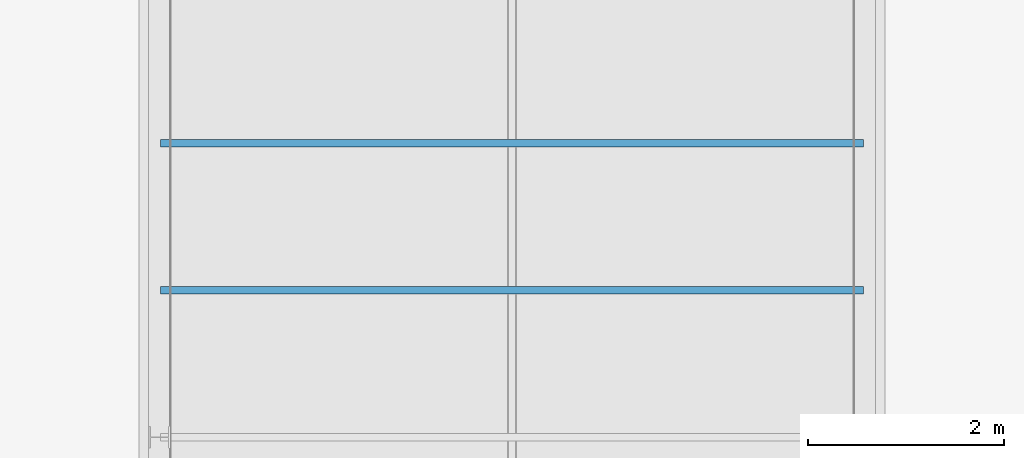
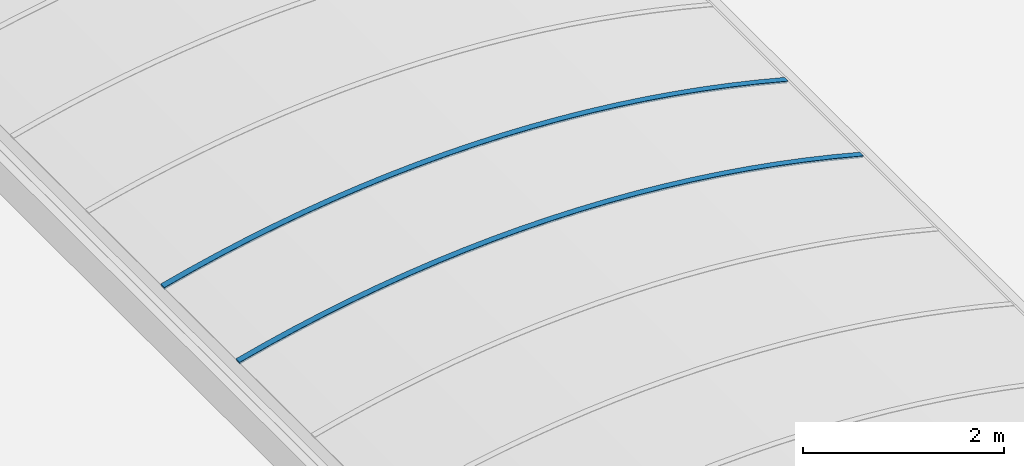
# One storey, part 55 of 81: 2 beams.
"""IFC2X3 building model written with IfcOpenShell, lengths in millimetres."""

from ifc_helpers import new_model, entity, si_unit, converted_unit, derived_unit, money_unit, direction, frame, origin_with_axes, place, context, subcontext, project, spatial, faceted_brep, material, material_list, type_object, element, save


model = new_model("IFC2X3")

# Units and contexts
model_context = context("Model", 3, precision=0.01, world=origin_with_axes(), true_north=direction((0.0, 1.0)))
body_context = subcontext(model_context, "Body", "Model", "MODEL_VIEW")
ifc_project = project(units=[si_unit("LENGTHUNIT", "METRE", prefix="MILLI"), si_unit("AREAUNIT", "SQUARE_METRE"), si_unit("VOLUMEUNIT", "CUBIC_METRE"), converted_unit("PLANEANGLEUNIT", "DEGREE", entity("IfcPlaneAngleMeasure", 0.0174532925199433), si_unit("PLANEANGLEUNIT", "RADIAN"), dimensions=[0, 0, 0, 0, 0, 0, 0]), money_unit("EUR"), converted_unit("TIMEUNIT", "Year", entity("IfcTimeMeasure", 31557600.0), si_unit("TIMEUNIT", "SECOND"), dimensions=[0, 0, 1, 0, 0, 0, 0]), si_unit("MASSUNIT", "GRAM", prefix="KILO"), si_unit("THERMODYNAMICTEMPERATUREUNIT", "DEGREE_CELSIUS"), si_unit("LUMINOUSINTENSITYUNIT", "LUMEN"), si_unit("ENERGYUNIT", "JOULE", prefix="MEGA"), derived_unit("THERMALCONDUCTANCEUNIT", [(si_unit("POWERUNIT", "WATT"), 1), (si_unit("LENGTHUNIT", "METRE"), -1), (si_unit("THERMODYNAMICTEMPERATUREUNIT", "KELVIN"), -1)]), derived_unit("SPECIFICHEATCAPACITYUNIT", [(si_unit("ENERGYUNIT", "JOULE"), 1), (si_unit("MASSUNIT", "GRAM", prefix="KILO"), -1), (si_unit("THERMODYNAMICTEMPERATUREUNIT", "KELVIN"), -1)]), derived_unit("MASSDENSITYUNIT", [(si_unit("MASSUNIT", "GRAM", prefix="KILO"), 1), (si_unit("VOLUMEUNIT", "CUBIC_METRE"), -1)])], contexts=[model_context])

# Site, building, storey
site_placement = place(None, origin_with_axes())
site = spatial("IfcSite", under=ifc_project, at=site_placement, Name="Site", CompositionType="ELEMENT")
building_placement = place(site_placement, origin_with_axes())
building = spatial("IfcBuilding", under=site, at=building_placement, Name="Naam gebouw", CompositionType="ELEMENT")
storey_placement = place(building_placement, frame((0.0, 0.0, 15320.0), z_axis=(0.0, 0.0, 1.0), x_axis=(1.0, 0.0, 0.0)))
storey = spatial("IfcBuildingStorey", under=building, at=storey_placement, Name="01 dak", CompositionType="ELEMENT", Elevation=15320.0)

# Beams
ifc_material = material(Name="Metaal - Aluminium AFW")
ifc_material_list = material_list([ifc_material, ifc_material])
beam_type = type_object("IfcBeamType", Name="lichtstraat polycarbonaat (constructie) 7420 x 670", PredefinedType="BEAM")
beam_1_placement = place(storey_placement, frame((105300.0, 77862.50000000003, 559.9999999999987), z_axis=(0.0, 0.0, 1.0), x_axis=(1.0, 0.0, 0.0)))
element("IfcBeam", 1, at=beam_1_placement, inside=storey, type_object=beam_type, material=ifc_material_list, Name="Plafondafwerking 3", ObjectType="BEAM", context=body_context, shape_type="Brep", body=[
    faceted_brep([(-3532.999999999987, 75.00000000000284, 192.1385480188), (-3532.999999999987, 0.0, 192.1385480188), (-3582.999999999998, 0.0, 179.000000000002), (-3582.999999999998, 75.00000000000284, 179.000000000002), (-3527.999999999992, 75.00000000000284, 193.4415530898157), (-3527.999999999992, 0.0, 193.4415530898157), (-2943.44844329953, 0.0, 337.3385317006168), (-3264.746952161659, 0.0, 264.2761146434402), (-3584.237010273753, 0.0, 183.6724462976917), (-3213.32287812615, 0.0, 271.5053933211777), (-2896.922437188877, 0.0, 342.2614189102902), (-2578.96836412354, 0.0, 405.6716830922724), (-2259.631179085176, 0.0, 461.7021786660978), (-1939.082143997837, 0.0, 510.3228562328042), (-1617.493170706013, 0.0, 551.5076403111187), (-1295.036728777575, 0.0, 585.2344433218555), (-971.8857530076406, 0.0, 611.485177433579), (-648.2135506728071, 0.0, 630.2457642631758), (-324.1937085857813, 0.0, 641.5061424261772), (0.0, 0.0, 645.2602729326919), (324.1937085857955, 0.0, 641.5061424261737), (648.2135506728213, 0.0, 630.2457642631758), (971.8857530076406, 0.0, 611.4851774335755), (1295.036728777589, 0.0, 585.2344433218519), (1617.493170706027, 0.0, 551.5076403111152), (1939.082143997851, 0.0, 510.3228562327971), (2259.63117908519, 0.0, 461.7021786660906), (2578.96836412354, 0.0, 405.6716830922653), (2896.922437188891, 0.0, 342.2614189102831), (3213.322878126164, 0.0, 271.5053933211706), (3528.000000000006, 0.0, 193.4415530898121), (3528.000000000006, 0.0, 194.0000000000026), (3533.000000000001, 0.0, 194.0000000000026), (3533.000000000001, 0.0, 192.1385480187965), (3582.999999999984, 0.0, 179.000000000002), (3584.237010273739, 0.0, 183.6724462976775), (3264.746952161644, 0.0, 264.2761146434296), (2943.448443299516, 0.0, 337.3385317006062), (2620.51946150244, 0.0, 402.8192257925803), (2296.138887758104, 0.0, 460.6819250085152), (1970.486407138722, 0.0, 510.8945772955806), (1643.742409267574, 0.0, 553.4293682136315), (1316.087888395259, 0.0, 588.2627363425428), (987.7043431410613, 0.0, 615.3753863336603), (658.7736759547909, 0.0, 634.7522995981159), (329.4780923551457, 0.0, 646.3827426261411), (0.0, 0.0, 650.2602729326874), (-329.4780923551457, 0.0, 646.3827426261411), (-658.7736759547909, 0.0, 634.7522995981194), (-987.7043431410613, 0.0, 615.375386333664), (-1316.087888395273, 0.0, 588.2627363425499), (-1643.742409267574, 0.0, 553.4293682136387), (-1970.486407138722, 0.0, 510.8945772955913), (-2296.138887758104, 0.0, 460.6819250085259), (-2620.519461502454, 0.0, 402.8192257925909), (-3584.237010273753, 75.00000000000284, 183.6724462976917), (-3213.32287812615, 75.00000000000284, 271.5053933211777), (-3264.746952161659, 75.00000000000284, 264.2761146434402), (-2943.44844329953, 75.00000000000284, 337.3385317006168), (-2620.519461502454, 75.00000000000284, 402.8192257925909), (-2296.138887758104, 75.00000000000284, 460.6819250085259), (-1970.486407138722, 75.00000000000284, 510.8945772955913), (-1643.742409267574, 75.00000000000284, 553.4293682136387), (-1316.087888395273, 75.00000000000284, 588.2627363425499), (-987.7043431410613, 75.00000000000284, 615.375386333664), (-658.7736759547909, 75.00000000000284, 634.7522995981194), (-329.4780923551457, 75.00000000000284, 646.3827426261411), (0.0, 75.00000000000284, 650.2602729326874), (329.4780923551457, 75.00000000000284, 646.3827426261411), (658.7736759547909, 75.00000000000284, 634.7522995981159), (987.7043431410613, 75.00000000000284, 615.3753863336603), (1316.087888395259, 75.00000000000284, 588.2627363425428), (1643.742409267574, 75.00000000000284, 553.4293682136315), (1970.486407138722, 75.00000000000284, 510.8945772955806), (2296.138887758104, 75.00000000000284, 460.6819250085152), (2620.51946150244, 75.00000000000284, 402.8192257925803), (2943.448443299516, 75.00000000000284, 337.3385317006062), (3264.746952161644, 75.00000000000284, 264.2761146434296), (3584.237010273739, 75.00000000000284, 183.6724462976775), (3582.999999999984, 75.00000000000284, 179.000000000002), (3533.000000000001, 75.00000000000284, 192.1385480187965), (3533.000000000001, 75.00000000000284, 194.0000000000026), (3528.000000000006, 75.00000000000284, 194.0000000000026), (3528.000000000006, 75.00000000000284, 193.4415530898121), (3213.322878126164, 75.00000000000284, 271.5053933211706), (2896.922437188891, 75.00000000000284, 342.2614189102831), (2578.96836412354, 75.00000000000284, 405.6716830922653), (2259.63117908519, 75.00000000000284, 461.7021786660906), (1939.082143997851, 75.00000000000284, 510.3228562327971), (1617.493170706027, 75.00000000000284, 551.5076403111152), (1295.036728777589, 75.00000000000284, 585.2344433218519), (971.8857530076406, 75.00000000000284, 611.4851774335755), (648.2135506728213, 75.00000000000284, 630.2457642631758), (324.1937085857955, 75.00000000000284, 641.5061424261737), (0.0, 75.00000000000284, 645.2602729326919), (-324.1937085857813, 75.00000000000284, 641.5061424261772), (-648.2135506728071, 75.00000000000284, 630.2457642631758), (-971.8857530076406, 75.00000000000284, 611.485177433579), (-1295.036728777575, 75.00000000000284, 585.2344433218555), (-1617.493170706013, 75.00000000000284, 551.5076403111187), (-1939.082143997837, 75.00000000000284, 510.3228562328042), (-2259.631179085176, 75.00000000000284, 461.7021786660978), (-2578.96836412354, 75.00000000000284, 405.6716830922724), (-2896.922437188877, 75.00000000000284, 342.2614189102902)], [[[0, 1, 2, 3]], [[4, 5, 1, 0]], [[6, 7, 8, 2, 1, 5, 9, 10, 11, 12, 13, 14, 15, 16, 17, 18, 19, 20, 21, 22, 23, 24, 25, 26, 27, 28, 29, 30, 31, 32, 33, 34, 35, 36, 37, 38, 39, 40, 41, 42, 43, 44, 45, 46, 47, 48, 49, 50, 51, 52, 53, 54]], [[3, 2, 8, 55]], [[56, 4, 0, 3, 55, 57, 58, 59, 60, 61, 62, 63, 64, 65, 66, 67, 68, 69, 70, 71, 72, 73, 74, 75, 76, 77, 78, 79, 80, 81, 82, 83, 84, 85, 86, 87, 88, 89, 90, 91, 92, 93, 94, 95, 96, 97, 98, 99, 100, 101, 102, 103]], [[56, 9, 5, 4]], [[57, 7, 6, 58]], [[55, 8, 7, 57]], [[103, 10, 9, 56]], [[102, 11, 10, 103]], [[101, 12, 11, 102]], [[100, 13, 12, 101]], [[99, 14, 13, 100]], [[98, 15, 14, 99]], [[97, 16, 15, 98]], [[96, 17, 16, 97]], [[95, 18, 17, 96]], [[94, 19, 18, 95]], [[93, 20, 19, 94]], [[92, 21, 20, 93]], [[91, 22, 21, 92]], [[90, 23, 22, 91]], [[89, 24, 23, 90]], [[88, 25, 24, 89]], [[87, 26, 25, 88]], [[86, 27, 26, 87]], [[85, 28, 27, 86]], [[84, 29, 28, 85]], [[83, 30, 29, 84]], [[82, 31, 30, 83]], [[81, 32, 31, 82]], [[80, 33, 32, 81]], [[79, 34, 33, 80]], [[78, 35, 34, 79]], [[77, 36, 35, 78]], [[76, 37, 36, 77]], [[75, 38, 37, 76]], [[74, 39, 38, 75]], [[73, 40, 39, 74]], [[72, 41, 40, 73]], [[71, 42, 41, 72]], [[70, 43, 42, 71]], [[69, 44, 43, 70]], [[68, 45, 44, 69]], [[67, 46, 45, 68]], [[66, 47, 46, 67]], [[65, 48, 47, 66]], [[64, 49, 48, 65]], [[63, 50, 49, 64]], [[62, 51, 50, 63]], [[61, 52, 51, 62]], [[60, 53, 52, 61]], [[59, 54, 53, 60]], [[58, 6, 54, 59]]]),
    faceted_brep([(3269.271727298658, 75.00000000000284, 283.190243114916), (2947.542627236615, 75.00000000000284, 356.4574241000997), (2947.542627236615, 0.0, 356.4574241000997), (3269.271727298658, 0.0, 283.190243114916), (3589.184752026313, 75.00000000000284, 202.3611008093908), (3587.947861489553, 75.00000000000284, 197.6891067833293), (3528.000000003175, 75.00000000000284, 213.4415530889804), (3213.322878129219, 75.00000000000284, 291.505393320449), (2896.922437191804, 75.00000000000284, 362.2614189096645), (2578.968364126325, 75.00000000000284, 425.6716830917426), (2259.631179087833, 75.00000000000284, 481.7021786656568), (1939.082144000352, 75.00000000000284, 530.3228562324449), (1617.493170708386, 75.00000000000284, 571.5076403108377), (1295.036728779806, 75.00000000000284, 605.2344433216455), (971.8857530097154, 75.00000000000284, 631.4851774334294), (648.2135506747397, 75.00000000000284, 650.2457642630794), (324.1937085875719, 75.00000000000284, 661.5061424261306), (1.63424829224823e-09, 75.00000000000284, 665.2602729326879), (-324.1937085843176, 75.00000000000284, 661.5061424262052), (-648.2135506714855, 75.00000000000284, 650.2457642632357), (-971.8857530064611, 75.00000000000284, 631.4851774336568), (-1295.036728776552, 75.00000000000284, 605.2344433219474), (-1617.493170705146, 75.00000000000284, 571.5076403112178), (-1939.082143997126, 75.00000000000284, 530.3228562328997), (-2259.631179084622, 75.00000000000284, 481.7021786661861), (-2578.968364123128, 75.00000000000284, 425.6716830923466), (-2896.922437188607, 75.00000000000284, 362.2614189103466), (-3213.322878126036, 75.00000000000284, 291.5053933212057), (-3528.00000000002, 75.00000000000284, 213.4415530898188), (-3533.000000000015, 75.00000000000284, 212.1385480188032), (-3587.947861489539, 75.00000000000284, 197.6891067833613), (-3589.184752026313, 75.00000000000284, 202.3611008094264), (-3269.271727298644, 75.00000000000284, 283.1902431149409), (-2947.542627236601, 75.00000000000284, 356.4574241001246), (-2624.176171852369, 75.00000000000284, 422.1219439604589), (-2299.351990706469, 75.00000000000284, 480.1473261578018), (-1973.250523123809, 75.00000000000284, 530.5013376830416), (-1646.052917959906, 75.00000000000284, 573.156006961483), (-1317.940932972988, 75.00000000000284, 608.0876393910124), (-989.0968338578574, 75.00000000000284, 635.2768305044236), (-659.7032929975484, 75.00000000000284, 654.7084767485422), (-329.9432879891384, 75.00000000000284, 666.3717838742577), (0.0, 75.00000000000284, 670.2602729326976), (329.9432879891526, 75.00000000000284, 666.3717838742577), (659.7032929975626, 75.00000000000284, 654.7084767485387), (989.0968338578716, 75.00000000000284, 635.2768305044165), (1317.940932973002, 75.00000000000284, 608.0876393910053), (1646.052917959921, 75.00000000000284, 573.1560069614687), (1973.250523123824, 75.00000000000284, 530.5013376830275), (2299.351990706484, 75.00000000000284, 480.147326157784), (2624.176171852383, 75.00000000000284, 422.1219439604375), (2624.176171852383, 0.0, 422.1219439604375), (2299.351990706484, 0.0, 480.147326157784), (1973.250523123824, 0.0, 530.5013376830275), (1646.052917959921, 0.0, 573.1560069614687), (1317.940932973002, 0.0, 608.0876393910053), (989.0968338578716, 0.0, 635.2768305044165), (659.7032929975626, 0.0, 654.7084767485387), (329.9432879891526, 0.0, 666.3717838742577), (0.0, 0.0, 670.2602729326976), (-329.9432879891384, 0.0, 666.3717838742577), (-659.7032929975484, 0.0, 654.7084767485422), (-989.0968338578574, 0.0, 635.2768305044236), (-1317.940932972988, 0.0, 608.0876393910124), (-1646.052917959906, 0.0, 573.156006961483), (-1973.250523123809, 0.0, 530.5013376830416), (-2299.351990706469, 0.0, 480.1473261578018), (-2624.176171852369, 0.0, 422.1219439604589), (-2947.542627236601, 0.0, 356.4574241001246), (-3269.271727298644, 0.0, 283.1902431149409), (-3589.184752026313, 0.0, 202.3611008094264), (-3587.947861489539, 0.0, 197.6891067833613), (-3533.000000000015, 0.0, 212.1385480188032), (-3528.00000000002, 0.0, 213.4415530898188), (-3213.322878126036, 0.0, 291.5053933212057), (-2896.922437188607, 0.0, 362.2614189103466), (-2578.968364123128, 0.0, 425.6716830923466), (-2259.631179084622, 0.0, 481.7021786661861), (-1939.082143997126, 0.0, 530.3228562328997), (-1617.493170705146, 0.0, 571.5076403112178), (-1295.036728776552, 0.0, 605.2344433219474), (-971.8857530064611, 0.0, 631.4851774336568), (-648.2135506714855, 0.0, 650.2457642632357), (-324.1937085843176, 0.0, 661.5061424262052), (1.63424829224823e-09, 0.0, 665.2602729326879), (324.1937085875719, 0.0, 661.5061424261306), (648.2135506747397, 0.0, 650.2457642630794), (971.8857530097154, 0.0, 631.4851774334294), (1295.036728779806, 0.0, 605.2344433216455), (1617.493170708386, 0.0, 571.5076403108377), (1939.082144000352, 0.0, 530.3228562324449), (2259.631179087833, 0.0, 481.7021786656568), (2578.968364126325, 0.0, 425.6716830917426), (2896.922437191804, 0.0, 362.2614189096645), (3213.322878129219, 0.0, 291.505393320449), (3528.000000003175, 0.0, 213.4415530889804), (3587.947861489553, 0.0, 197.6891067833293), (3589.184752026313, 0.0, 202.3611008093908)], [[[0, 1, 2, 3]], [[0, 4, 5, 6, 7, 8, 9, 10, 11, 12, 13, 14, 15, 16, 17, 18, 19, 20, 21, 22, 23, 24, 25, 26, 27, 28, 29, 30, 31, 32, 33, 34, 35, 36, 37, 38, 39, 40, 41, 42, 43, 44, 45, 46, 47, 48, 49, 50, 1]], [[1, 50, 51, 2]], [[3, 2, 51, 52, 53, 54, 55, 56, 57, 58, 59, 60, 61, 62, 63, 64, 65, 66, 67, 68, 69, 70, 71, 72, 73, 74, 75, 76, 77, 78, 79, 80, 81, 82, 83, 84, 85, 86, 87, 88, 89, 90, 91, 92, 93, 94, 95, 96, 97]], [[4, 0, 3, 97]], [[5, 4, 97, 96]], [[6, 5, 96, 95]], [[7, 6, 95, 94]], [[8, 7, 94, 93]], [[9, 8, 93, 92]], [[10, 9, 92, 91]], [[11, 10, 91, 90]], [[12, 11, 90, 89]], [[13, 12, 89, 88]], [[14, 13, 88, 87]], [[15, 14, 87, 86]], [[16, 15, 86, 85]], [[17, 16, 85, 84]], [[18, 17, 84, 83]], [[19, 18, 83, 82]], [[20, 19, 82, 81]], [[21, 20, 81, 80]], [[22, 21, 80, 79]], [[23, 22, 79, 78]], [[24, 23, 78, 77]], [[25, 24, 77, 76]], [[26, 25, 76, 75]], [[27, 26, 75, 74]], [[28, 27, 74, 73]], [[29, 28, 73, 72]], [[30, 29, 72, 71]], [[31, 30, 71, 70]], [[32, 31, 70, 69]], [[33, 32, 69, 68]], [[34, 33, 68, 67]], [[35, 34, 67, 66]], [[36, 35, 66, 65]], [[37, 36, 65, 64]], [[38, 37, 64, 63]], [[39, 38, 63, 62]], [[40, 39, 62, 61]], [[41, 40, 61, 60]], [[42, 41, 60, 59]], [[43, 42, 59, 58]], [[44, 43, 58, 57]], [[45, 44, 57, 56]], [[46, 45, 56, 55]], [[47, 46, 55, 54]], [[48, 47, 54, 53]], [[49, 48, 53, 52]], [[50, 49, 52, 51]]]),
])
beam_2_placement = place(storey_placement, frame((105300.0, 79362.50000000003, 559.9999999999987), z_axis=(0.0, 0.0, 1.0), x_axis=(1.0, 0.0, 0.0)))
element("IfcBeam", 2, at=beam_2_placement, inside=storey, type_object=beam_type, material=ifc_material_list, Name="Plafondafwerking 3", ObjectType="BEAM", context=body_context, shape_type="Brep", body=[
    faceted_brep([(-3532.999999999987, 75.00000000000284, 192.1385480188), (-3532.999999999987, 0.0, 192.1385480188), (-3582.999999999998, 0.0, 179.000000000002), (-3582.999999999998, 75.00000000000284, 179.000000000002), (-3527.999999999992, 75.00000000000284, 193.4415530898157), (-3527.999999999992, 0.0, 193.4415530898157), (-2943.44844329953, 0.0, 337.3385317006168), (-3264.746952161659, 0.0, 264.2761146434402), (-3584.237010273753, 0.0, 183.6724462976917), (-3213.32287812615, 0.0, 271.5053933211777), (-2896.922437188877, 0.0, 342.2614189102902), (-2578.96836412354, 0.0, 405.6716830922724), (-2259.631179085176, 0.0, 461.7021786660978), (-1939.082143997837, 0.0, 510.3228562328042), (-1617.493170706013, 0.0, 551.5076403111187), (-1295.036728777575, 0.0, 585.2344433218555), (-971.8857530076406, 0.0, 611.485177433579), (-648.2135506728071, 0.0, 630.2457642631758), (-324.1937085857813, 0.0, 641.5061424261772), (0.0, 0.0, 645.2602729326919), (324.1937085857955, 0.0, 641.5061424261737), (648.2135506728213, 0.0, 630.2457642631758), (971.8857530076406, 0.0, 611.4851774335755), (1295.036728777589, 0.0, 585.2344433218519), (1617.493170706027, 0.0, 551.5076403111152), (1939.082143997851, 0.0, 510.3228562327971), (2259.63117908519, 0.0, 461.7021786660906), (2578.96836412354, 0.0, 405.6716830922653), (2896.922437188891, 0.0, 342.2614189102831), (3213.322878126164, 0.0, 271.5053933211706), (3528.000000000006, 0.0, 193.4415530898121), (3528.000000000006, 0.0, 194.0000000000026), (3533.000000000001, 0.0, 194.0000000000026), (3533.000000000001, 0.0, 192.1385480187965), (3582.999999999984, 0.0, 179.000000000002), (3584.237010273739, 0.0, 183.6724462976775), (3264.746952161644, 0.0, 264.2761146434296), (2943.448443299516, 0.0, 337.3385317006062), (2620.51946150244, 0.0, 402.8192257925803), (2296.138887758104, 0.0, 460.6819250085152), (1970.486407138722, 0.0, 510.8945772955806), (1643.742409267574, 0.0, 553.4293682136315), (1316.087888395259, 0.0, 588.2627363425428), (987.7043431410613, 0.0, 615.3753863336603), (658.7736759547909, 0.0, 634.7522995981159), (329.4780923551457, 0.0, 646.3827426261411), (0.0, 0.0, 650.2602729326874), (-329.4780923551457, 0.0, 646.3827426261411), (-658.7736759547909, 0.0, 634.7522995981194), (-987.7043431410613, 0.0, 615.375386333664), (-1316.087888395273, 0.0, 588.2627363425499), (-1643.742409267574, 0.0, 553.4293682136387), (-1970.486407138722, 0.0, 510.8945772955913), (-2296.138887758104, 0.0, 460.6819250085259), (-2620.519461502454, 0.0, 402.8192257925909), (-3584.237010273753, 75.00000000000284, 183.6724462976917), (-3213.32287812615, 75.00000000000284, 271.5053933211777), (-3264.746952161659, 75.00000000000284, 264.2761146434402), (-2943.44844329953, 75.00000000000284, 337.3385317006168), (-2620.519461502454, 75.00000000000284, 402.8192257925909), (-2296.138887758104, 75.00000000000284, 460.6819250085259), (-1970.486407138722, 75.00000000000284, 510.8945772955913), (-1643.742409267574, 75.00000000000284, 553.4293682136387), (-1316.087888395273, 75.00000000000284, 588.2627363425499), (-987.7043431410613, 75.00000000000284, 615.375386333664), (-658.7736759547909, 75.00000000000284, 634.7522995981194), (-329.4780923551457, 75.00000000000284, 646.3827426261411), (0.0, 75.00000000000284, 650.2602729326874), (329.4780923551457, 75.00000000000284, 646.3827426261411), (658.7736759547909, 75.00000000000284, 634.7522995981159), (987.7043431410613, 75.00000000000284, 615.3753863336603), (1316.087888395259, 75.00000000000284, 588.2627363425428), (1643.742409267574, 75.00000000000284, 553.4293682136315), (1970.486407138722, 75.00000000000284, 510.8945772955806), (2296.138887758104, 75.00000000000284, 460.6819250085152), (2620.51946150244, 75.00000000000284, 402.8192257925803), (2943.448443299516, 75.00000000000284, 337.3385317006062), (3264.746952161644, 75.00000000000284, 264.2761146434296), (3584.237010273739, 75.00000000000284, 183.6724462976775), (3582.999999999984, 75.00000000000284, 179.000000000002), (3533.000000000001, 75.00000000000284, 192.1385480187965), (3533.000000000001, 75.00000000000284, 194.0000000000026), (3528.000000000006, 75.00000000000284, 194.0000000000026), (3528.000000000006, 75.00000000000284, 193.4415530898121), (3213.322878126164, 75.00000000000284, 271.5053933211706), (2896.922437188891, 75.00000000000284, 342.2614189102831), (2578.96836412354, 75.00000000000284, 405.6716830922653), (2259.63117908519, 75.00000000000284, 461.7021786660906), (1939.082143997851, 75.00000000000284, 510.3228562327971), (1617.493170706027, 75.00000000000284, 551.5076403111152), (1295.036728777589, 75.00000000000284, 585.2344433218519), (971.8857530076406, 75.00000000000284, 611.4851774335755), (648.2135506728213, 75.00000000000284, 630.2457642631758), (324.1937085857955, 75.00000000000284, 641.5061424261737), (0.0, 75.00000000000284, 645.2602729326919), (-324.1937085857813, 75.00000000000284, 641.5061424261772), (-648.2135506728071, 75.00000000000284, 630.2457642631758), (-971.8857530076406, 75.00000000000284, 611.485177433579), (-1295.036728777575, 75.00000000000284, 585.2344433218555), (-1617.493170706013, 75.00000000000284, 551.5076403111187), (-1939.082143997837, 75.00000000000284, 510.3228562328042), (-2259.631179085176, 75.00000000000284, 461.7021786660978), (-2578.96836412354, 75.00000000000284, 405.6716830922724), (-2896.922437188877, 75.00000000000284, 342.2614189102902)], [[[0, 1, 2, 3]], [[4, 5, 1, 0]], [[6, 7, 8, 2, 1, 5, 9, 10, 11, 12, 13, 14, 15, 16, 17, 18, 19, 20, 21, 22, 23, 24, 25, 26, 27, 28, 29, 30, 31, 32, 33, 34, 35, 36, 37, 38, 39, 40, 41, 42, 43, 44, 45, 46, 47, 48, 49, 50, 51, 52, 53, 54]], [[3, 2, 8, 55]], [[56, 4, 0, 3, 55, 57, 58, 59, 60, 61, 62, 63, 64, 65, 66, 67, 68, 69, 70, 71, 72, 73, 74, 75, 76, 77, 78, 79, 80, 81, 82, 83, 84, 85, 86, 87, 88, 89, 90, 91, 92, 93, 94, 95, 96, 97, 98, 99, 100, 101, 102, 103]], [[56, 9, 5, 4]], [[57, 7, 6, 58]], [[55, 8, 7, 57]], [[103, 10, 9, 56]], [[102, 11, 10, 103]], [[101, 12, 11, 102]], [[100, 13, 12, 101]], [[99, 14, 13, 100]], [[98, 15, 14, 99]], [[97, 16, 15, 98]], [[96, 17, 16, 97]], [[95, 18, 17, 96]], [[94, 19, 18, 95]], [[93, 20, 19, 94]], [[92, 21, 20, 93]], [[91, 22, 21, 92]], [[90, 23, 22, 91]], [[89, 24, 23, 90]], [[88, 25, 24, 89]], [[87, 26, 25, 88]], [[86, 27, 26, 87]], [[85, 28, 27, 86]], [[84, 29, 28, 85]], [[83, 30, 29, 84]], [[82, 31, 30, 83]], [[81, 32, 31, 82]], [[80, 33, 32, 81]], [[79, 34, 33, 80]], [[78, 35, 34, 79]], [[77, 36, 35, 78]], [[76, 37, 36, 77]], [[75, 38, 37, 76]], [[74, 39, 38, 75]], [[73, 40, 39, 74]], [[72, 41, 40, 73]], [[71, 42, 41, 72]], [[70, 43, 42, 71]], [[69, 44, 43, 70]], [[68, 45, 44, 69]], [[67, 46, 45, 68]], [[66, 47, 46, 67]], [[65, 48, 47, 66]], [[64, 49, 48, 65]], [[63, 50, 49, 64]], [[62, 51, 50, 63]], [[61, 52, 51, 62]], [[60, 53, 52, 61]], [[59, 54, 53, 60]], [[58, 6, 54, 59]]]),
    faceted_brep([(3269.271727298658, 75.00000000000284, 283.190243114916), (2947.542627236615, 75.00000000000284, 356.4574241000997), (2947.542627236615, 0.0, 356.4574241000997), (3269.271727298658, 0.0, 283.190243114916), (3589.184752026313, 75.00000000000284, 202.3611008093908), (3587.947861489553, 75.00000000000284, 197.6891067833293), (3528.000000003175, 75.00000000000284, 213.4415530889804), (3213.322878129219, 75.00000000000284, 291.505393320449), (2896.922437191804, 75.00000000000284, 362.2614189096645), (2578.968364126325, 75.00000000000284, 425.6716830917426), (2259.631179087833, 75.00000000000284, 481.7021786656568), (1939.082144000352, 75.00000000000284, 530.3228562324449), (1617.493170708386, 75.00000000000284, 571.5076403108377), (1295.036728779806, 75.00000000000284, 605.2344433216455), (971.8857530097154, 75.00000000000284, 631.4851774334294), (648.2135506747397, 75.00000000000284, 650.2457642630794), (324.1937085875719, 75.00000000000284, 661.5061424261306), (1.63424829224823e-09, 75.00000000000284, 665.2602729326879), (-324.1937085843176, 75.00000000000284, 661.5061424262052), (-648.2135506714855, 75.00000000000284, 650.2457642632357), (-971.8857530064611, 75.00000000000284, 631.4851774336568), (-1295.036728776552, 75.00000000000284, 605.2344433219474), (-1617.493170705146, 75.00000000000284, 571.5076403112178), (-1939.082143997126, 75.00000000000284, 530.3228562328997), (-2259.631179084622, 75.00000000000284, 481.7021786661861), (-2578.968364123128, 75.00000000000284, 425.6716830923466), (-2896.922437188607, 75.00000000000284, 362.2614189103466), (-3213.322878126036, 75.00000000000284, 291.5053933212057), (-3528.00000000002, 75.00000000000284, 213.4415530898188), (-3533.000000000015, 75.00000000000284, 212.1385480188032), (-3587.947861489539, 75.00000000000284, 197.6891067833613), (-3589.184752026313, 75.00000000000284, 202.3611008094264), (-3269.271727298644, 75.00000000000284, 283.1902431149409), (-2947.542627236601, 75.00000000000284, 356.4574241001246), (-2624.176171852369, 75.00000000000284, 422.1219439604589), (-2299.351990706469, 75.00000000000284, 480.1473261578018), (-1973.250523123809, 75.00000000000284, 530.5013376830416), (-1646.052917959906, 75.00000000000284, 573.156006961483), (-1317.940932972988, 75.00000000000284, 608.0876393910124), (-989.0968338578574, 75.00000000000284, 635.2768305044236), (-659.7032929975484, 75.00000000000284, 654.7084767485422), (-329.9432879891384, 75.00000000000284, 666.3717838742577), (0.0, 75.00000000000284, 670.2602729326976), (329.9432879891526, 75.00000000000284, 666.3717838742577), (659.7032929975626, 75.00000000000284, 654.7084767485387), (989.0968338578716, 75.00000000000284, 635.2768305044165), (1317.940932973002, 75.00000000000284, 608.0876393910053), (1646.052917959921, 75.00000000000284, 573.1560069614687), (1973.250523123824, 75.00000000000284, 530.5013376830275), (2299.351990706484, 75.00000000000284, 480.147326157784), (2624.176171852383, 75.00000000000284, 422.1219439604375), (2624.176171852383, 0.0, 422.1219439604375), (2299.351990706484, 0.0, 480.147326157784), (1973.250523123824, 0.0, 530.5013376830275), (1646.052917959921, 0.0, 573.1560069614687), (1317.940932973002, 0.0, 608.0876393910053), (989.0968338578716, 0.0, 635.2768305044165), (659.7032929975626, 0.0, 654.7084767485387), (329.9432879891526, 0.0, 666.3717838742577), (0.0, 0.0, 670.2602729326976), (-329.9432879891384, 0.0, 666.3717838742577), (-659.7032929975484, 0.0, 654.7084767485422), (-989.0968338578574, 0.0, 635.2768305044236), (-1317.940932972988, 0.0, 608.0876393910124), (-1646.052917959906, 0.0, 573.156006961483), (-1973.250523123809, 0.0, 530.5013376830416), (-2299.351990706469, 0.0, 480.1473261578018), (-2624.176171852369, 0.0, 422.1219439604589), (-2947.542627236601, 0.0, 356.4574241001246), (-3269.271727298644, 0.0, 283.1902431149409), (-3589.184752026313, 0.0, 202.3611008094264), (-3587.947861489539, 0.0, 197.6891067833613), (-3533.000000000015, 0.0, 212.1385480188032), (-3528.00000000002, 0.0, 213.4415530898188), (-3213.322878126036, 0.0, 291.5053933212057), (-2896.922437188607, 0.0, 362.2614189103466), (-2578.968364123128, 0.0, 425.6716830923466), (-2259.631179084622, 0.0, 481.7021786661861), (-1939.082143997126, 0.0, 530.3228562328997), (-1617.493170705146, 0.0, 571.5076403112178), (-1295.036728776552, 0.0, 605.2344433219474), (-971.8857530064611, 0.0, 631.4851774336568), (-648.2135506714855, 0.0, 650.2457642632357), (-324.1937085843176, 0.0, 661.5061424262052), (1.63424829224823e-09, 0.0, 665.2602729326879), (324.1937085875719, 0.0, 661.5061424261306), (648.2135506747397, 0.0, 650.2457642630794), (971.8857530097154, 0.0, 631.4851774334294), (1295.036728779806, 0.0, 605.2344433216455), (1617.493170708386, 0.0, 571.5076403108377), (1939.082144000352, 0.0, 530.3228562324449), (2259.631179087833, 0.0, 481.7021786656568), (2578.968364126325, 0.0, 425.6716830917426), (2896.922437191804, 0.0, 362.2614189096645), (3213.322878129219, 0.0, 291.505393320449), (3528.000000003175, 0.0, 213.4415530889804), (3587.947861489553, 0.0, 197.6891067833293), (3589.184752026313, 0.0, 202.3611008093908)], [[[0, 1, 2, 3]], [[0, 4, 5, 6, 7, 8, 9, 10, 11, 12, 13, 14, 15, 16, 17, 18, 19, 20, 21, 22, 23, 24, 25, 26, 27, 28, 29, 30, 31, 32, 33, 34, 35, 36, 37, 38, 39, 40, 41, 42, 43, 44, 45, 46, 47, 48, 49, 50, 1]], [[1, 50, 51, 2]], [[3, 2, 51, 52, 53, 54, 55, 56, 57, 58, 59, 60, 61, 62, 63, 64, 65, 66, 67, 68, 69, 70, 71, 72, 73, 74, 75, 76, 77, 78, 79, 80, 81, 82, 83, 84, 85, 86, 87, 88, 89, 90, 91, 92, 93, 94, 95, 96, 97]], [[4, 0, 3, 97]], [[5, 4, 97, 96]], [[6, 5, 96, 95]], [[7, 6, 95, 94]], [[8, 7, 94, 93]], [[9, 8, 93, 92]], [[10, 9, 92, 91]], [[11, 10, 91, 90]], [[12, 11, 90, 89]], [[13, 12, 89, 88]], [[14, 13, 88, 87]], [[15, 14, 87, 86]], [[16, 15, 86, 85]], [[17, 16, 85, 84]], [[18, 17, 84, 83]], [[19, 18, 83, 82]], [[20, 19, 82, 81]], [[21, 20, 81, 80]], [[22, 21, 80, 79]], [[23, 22, 79, 78]], [[24, 23, 78, 77]], [[25, 24, 77, 76]], [[26, 25, 76, 75]], [[27, 26, 75, 74]], [[28, 27, 74, 73]], [[29, 28, 73, 72]], [[30, 29, 72, 71]], [[31, 30, 71, 70]], [[32, 31, 70, 69]], [[33, 32, 69, 68]], [[34, 33, 68, 67]], [[35, 34, 67, 66]], [[36, 35, 66, 65]], [[37, 36, 65, 64]], [[38, 37, 64, 63]], [[39, 38, 63, 62]], [[40, 39, 62, 61]], [[41, 40, 61, 60]], [[42, 41, 60, 59]], [[43, 42, 59, 58]], [[44, 43, 58, 57]], [[45, 44, 57, 56]], [[46, 45, 56, 55]], [[47, 46, 55, 54]], [[48, 47, 54, 53]], [[49, 48, 53, 52]], [[50, 49, 52, 51]]]),
])

save(model, "model.ifc")
